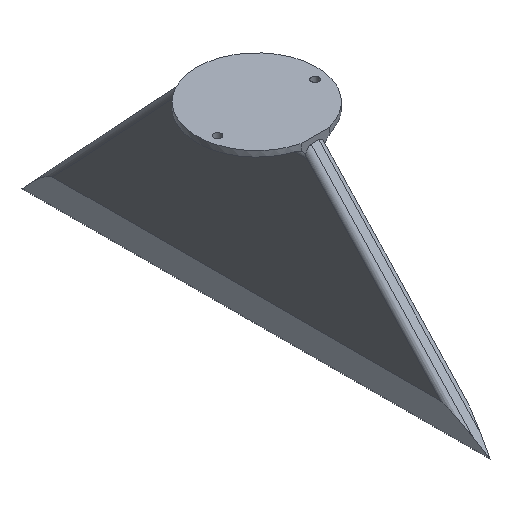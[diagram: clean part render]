
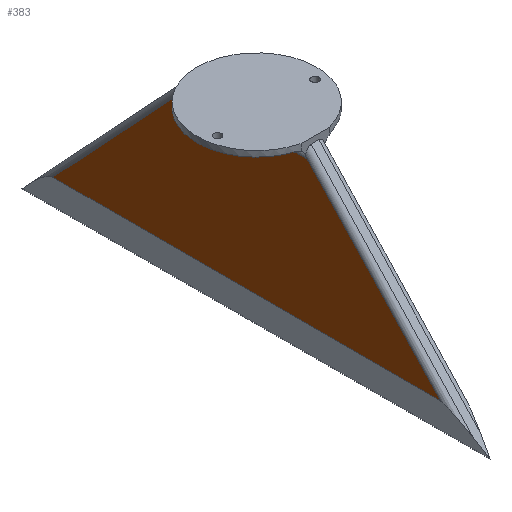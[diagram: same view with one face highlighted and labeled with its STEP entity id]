
A CAD part, isometric view. The second image highlights one B-rep face of the part: STEP entity #383.
In plain terms, the highlighted planar face has unit normal (-1, 0, 0).
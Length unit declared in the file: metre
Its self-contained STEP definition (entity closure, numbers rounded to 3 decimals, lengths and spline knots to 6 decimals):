
#29=PLANE('',#432);
#44=LINE('',#571,#73);
#49=LINE('',#602,#78);
#54=LINE('',#632,#83);
#68=LINE('',#675,#97);
#69=LINE('',#677,#98);
#70=LINE('',#679,#99);
#73=VECTOR('',#448,1.);
#78=VECTOR('',#467,1.);
#83=VECTOR('',#484,1.);
#97=VECTOR('',#530,1.);
#98=VECTOR('',#531,1.);
#99=VECTOR('',#532,1.);
#173=ORIENTED_EDGE('',*,*,#255,.T.);
#174=ORIENTED_EDGE('',*,*,#256,.T.);
#175=ORIENTED_EDGE('',*,*,#257,.T.);
#176=ORIENTED_EDGE('',*,*,#223,.T.);
#177=ORIENTED_EDGE('',*,*,#212,.T.);
#178=ORIENTED_EDGE('',*,*,#235,.T.);
#212=EDGE_CURVE('',#267,#266,#44,.T.);
#223=EDGE_CURVE('',#276,#267,#49,.T.);
#235=EDGE_CURVE('',#266,#284,#54,.T.);
#255=EDGE_CURVE('',#284,#298,#68,.T.);
#256=EDGE_CURVE('',#298,#299,#69,.T.);
#257=EDGE_CURVE('',#299,#276,#70,.F.);
#266=VERTEX_POINT('',#570);
#267=VERTEX_POINT('',#572);
#276=VERTEX_POINT('',#603);
#284=VERTEX_POINT('',#631);
#298=VERTEX_POINT('',#676);
#299=VERTEX_POINT('',#678);
#326=EDGE_LOOP('',(#173,#174,#175,#176,#177,#178));
#353=FACE_BOUND('',#326,.T.);
#383=ADVANCED_FACE('',(#353),#29,.F.);
#432=AXIS2_PLACEMENT_3D('',#674,#528,#529);
#448=DIRECTION('',(0.,1.,0.));
#467=DIRECTION('',(0.,0.,-1.));
#484=DIRECTION('',(0.,0.,1.));
#528=DIRECTION('',(1.,0.,0.));
#529=DIRECTION('',(0.,1.,0.));
#530=DIRECTION('',(0.,0.683,-0.731));
#531=DIRECTION('',(0.,-1.,0.));
#532=DIRECTION('',(0.,-0.683,-0.731));
#570=CARTESIAN_POINT('',(-0.005,0.031607,-0.015));
#571=CARTESIAN_POINT('',(-0.005,0.000446,-0.015));
#572=CARTESIAN_POINT('',(-0.005,-0.031109,-0.015));
#602=CARTESIAN_POINT('',(-0.005,-0.031109,-0.06));
#603=CARTESIAN_POINT('',(-0.005,-0.031109,-0.014394));
#631=CARTESIAN_POINT('',(-0.005,0.031607,-0.013973));
#632=CARTESIAN_POINT('',(-0.005,0.031607,-0.01));
#674=CARTESIAN_POINT('',(-0.005,0.000446,-0.06));
#675=CARTESIAN_POINT('',(-0.005,0.123254,-0.112048));
#676=CARTESIAN_POINT('',(-0.005,0.103903,-0.09134));
#677=CARTESIAN_POINT('',(-0.005,0.000446,-0.09134));
#678=CARTESIAN_POINT('',(-0.005,-0.103011,-0.09134));
#679=CARTESIAN_POINT('',(-0.005,-0.03915,-0.022999));
